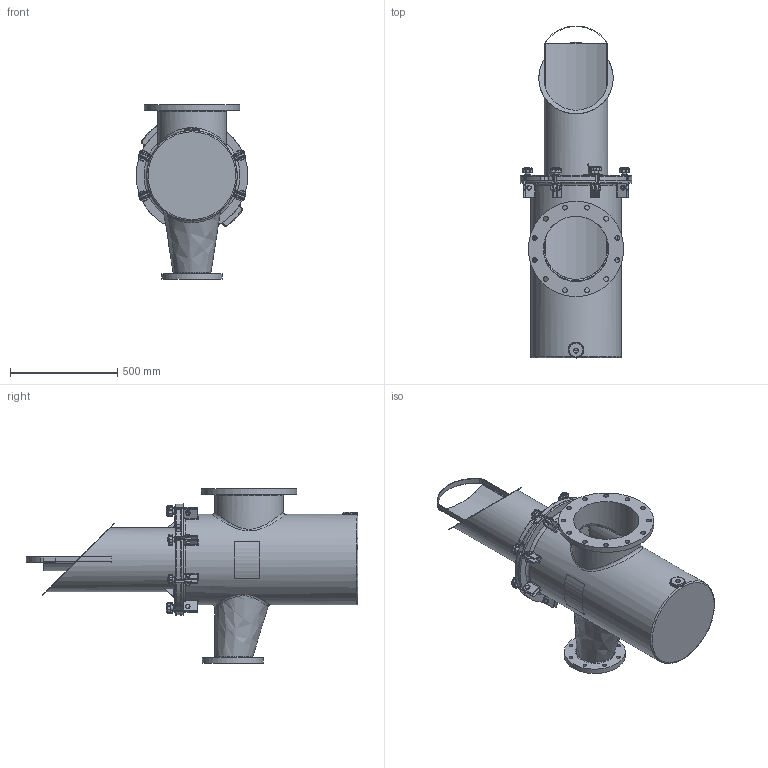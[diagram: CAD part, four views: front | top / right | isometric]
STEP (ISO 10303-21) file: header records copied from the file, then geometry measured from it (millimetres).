
FILE_DESCRIPTION(/* description */ ('300MM X 150MM FIBERGLASS STRAINER BODY'),/* implementation_level */ '2;1');
FILE_NAME(/* name */ 'C:\Users\r.kommineni.ext\Desktop\NB\CAD\Workspace\FG Reducing Strainer\Guardian FG Reducing H&L Strainer (Metric)_CLEARANCE VOLUME\STRAINER H&L 300MM X 150MM.stp',/* time_stamp */ '2017-06-09T13:33:12-04:00',/* author */ ('r.kommineni.ext'),/* organization */ (''),/* preprocessor_version */ 'ST-DEVELOPER v16.1',/* originating_system */ 'Autodesk Inventor 2016',/* authorisation */ '');
FILE_SCHEMA (('CONFIG_CONTROL_DESIGN'));
Length unit declared in the file: inch
Products named in the file (25): NBFGBODY12X06MM; 150NBCVR20R2; 150NBGSK16R1; Perforated Basket 16in; Bride (Ring) 16in; Baffle 16in; Handle 16in; Bottom Strainer 16in; BRACESTRCVR16_Welds; BRACE (BASE) FOR 16 BODY; BRACE (PROJ) FOR 16 BODY; Bumper; BRACESTRCVR16; Nut- 1_2  UNC; Bolt-1_2 x 1 1_2  UNC; EyeBolt; Washer; Knob M10; Securing Assembly For FG  with Brace; Securing Assembly For FG without Brace; Label for 16.625 inch (Right); Label for 16.625 inch (Left); NBBSK10T316_clearance; NBBSK10T316_clearance_1; STRAINER H&L 300MM X 150MM
Assembly tree (40 placements, depth 3):
  STRAINER H&L 300MM X 150MM
    NBFGBODY12X06MM
    150NBCVR20R2
    150NBGSK16R1
    NBBSK10T316_clearance_1
      Perforated Basket 16in
      Bride (Ring) 16in
      Baffle 16in
      Handle 16in
      Bottom Strainer 16in
      NBBSK10T316_clearance
    BRACESTRCVR16
      BRACESTRCVR16_Welds
      BRACE (BASE) FOR 16 BODY
      BRACE (PROJ) FOR 16 BODY
      Bumper  x6
    Securing Assembly For FG  with Brace  x2
      Nut- 1_2  UNC
      Bolt-1_2 x 1 1_2  UNC
      EyeBolt
      Washer
      Knob M10
    Securing Assembly For FG without Brace  x6
      Nut- 1_2  UNC
      Bolt-1_2 x 1 1_2  UNC
      EyeBolt
      Washer
      Knob M10
    Label for 16.625 inch (Right)
    Label for 16.625 inch (Left)
Bounding box: 520.7 x 1548.8 x 812.8 mm (x, y, z)
Volume: 22948265.6 mm3; surface area: 6577702.2 mm2
Topology: 66 solids, 69 shells, 1832 faces, 4192 edges, 2483 vertices
Faces by surface type: cylinder 671, plane 514, cone 184, torus 166, sphere 158, bspline 139
Full cylindrical faces by diameter (mm): 3.175 x11, 6.35 x2, 8.382 x8, 9.525 x16, 10.592 x8, 12.7 x8, 15.875 x16, 17.78 x8, 19 x16, 19.05 x8, 22.098 x12, 22.809 x1, 31.75 x8, 68.263 x1, 284.48 x1, 295.275 x2, 298.45 x2, 300.99 x1, 304.8 x1, 320.675 x1, 406.4 x2, 409.575 x1, 415.925 x1, 422.275 x1, 444.5 x1, 457.2 x1, 463.55 x1
Entity records: 35711 total; most frequent: CARTESIAN_POINT 12208, DIRECTION 4874, ORIENTED_EDGE 4405, EDGE_CURVE 2227, AXIS2_PLACEMENT_3D 1989, VERTEX_POINT 1399, EDGE_LOOP 1197, ADVANCED_FACE 982
